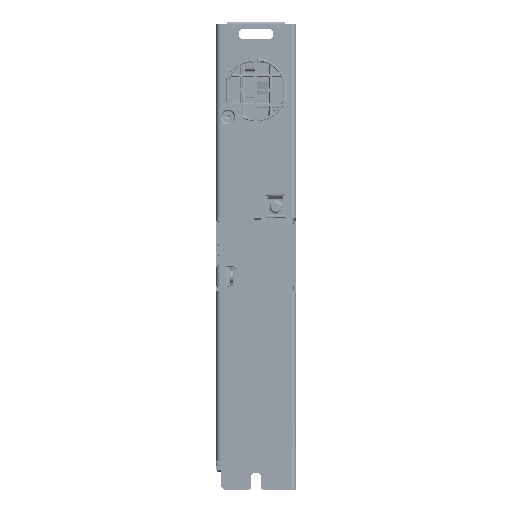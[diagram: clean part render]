
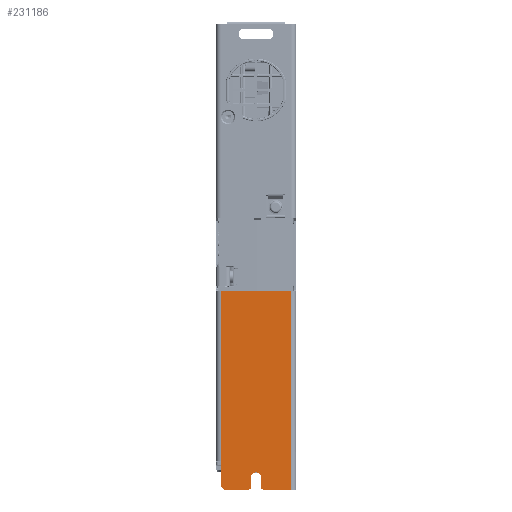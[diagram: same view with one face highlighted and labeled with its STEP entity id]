
A CAD part, top view. The second image highlights one B-rep face of the part: STEP entity #231186.
In plain terms, the highlighted planar face has unit normal (0, 0, 1).
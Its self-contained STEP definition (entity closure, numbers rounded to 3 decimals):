
#224234=CARTESIAN_POINT('',(4.414,-49.,7.3));
#224235=DIRECTION('',(0.,0.,1.));
#224236=DIRECTION('',(-0.707,-0.707,0.));
#224237=AXIS2_PLACEMENT_3D('',#224234,#224235,#224236);
#224239=DIRECTION('',(0.707,-0.707,0.));
#224240=VECTOR('',#224239,1.293);
#224241=CARTESIAN_POINT('',(2.793,-48.793,7.3));
#224242=LINE('',#224241,#224240);
#224243=CARTESIAN_POINT('',(3.5,-48.086,7.3));
#224244=DIRECTION('',(0.,0.,1.));
#224245=DIRECTION('',(-1.,0.,0.));
#224246=AXIS2_PLACEMENT_3D('',#224243,#224244,#224245);
#224248=DIRECTION('',(0.,1.,0.));
#224249=VECTOR('',#224248,12.286);
#224250=CARTESIAN_POINT('',(2.5,-48.086,7.3));
#224251=LINE('',#224250,#224249);
#224252=DIRECTION('',(-1.,0.,0.));
#224253=VECTOR('',#224252,0.2);
#224254=CARTESIAN_POINT('',(2.5,-35.8,7.3));
#224255=LINE('',#224254,#224253);
#224256=DIRECTION('',(-1.,0.,0.));
#224257=VECTOR('',#224256,35.2);
#224258=CARTESIAN_POINT('',(37.5,49.3,7.3));
#224259=LINE('',#224258,#224257);
#224260=DIRECTION('',(-1.,0.,0.));
#224261=VECTOR('',#224260,13.9);
#224262=CARTESIAN_POINT('',(37.5,-50.,7.3));
#224263=LINE('',#224262,#224261);
#224264=CARTESIAN_POINT('',(23.6,-49.,7.3));
#224265=DIRECTION('',(0.,0.,1.));
#224266=DIRECTION('',(-1.,0.,0.));
#224267=AXIS2_PLACEMENT_3D('',#224264,#224265,#224266);
#224269=DIRECTION('',(0.,1.,0.));
#224270=VECTOR('',#224269,5.);
#224271=CARTESIAN_POINT('',(22.6,-49.,7.3));
#224272=LINE('',#224271,#224270);
#224273=CARTESIAN_POINT('',(20.,-44.,7.3));
#224274=DIRECTION('',(0.,0.,-1.));
#224275=DIRECTION('',(-1.,0.,0.));
#224276=AXIS2_PLACEMENT_3D('',#224273,#224274,#224275);
#224278=DIRECTION('',(0.,1.,0.));
#224279=VECTOR('',#224278,5.);
#224280=CARTESIAN_POINT('',(17.4,-49.,7.3));
#224281=LINE('',#224280,#224279);
#224282=CARTESIAN_POINT('',(16.4,-49.,7.3));
#224283=DIRECTION('',(0.,0.,1.));
#224284=DIRECTION('',(0.,-1.,0.));
#224285=AXIS2_PLACEMENT_3D('',#224282,#224283,#224284);
#224287=DIRECTION('',(-1.,0.,0.));
#224288=VECTOR('',#224287,11.986);
#224289=CARTESIAN_POINT('',(16.4,-50.,7.3));
#224290=LINE('',#224289,#224288);
#225096=DIRECTION('',(0.,-1.,0.));
#225097=VECTOR('',#225096,99.3);
#225098=CARTESIAN_POINT('',(37.5,49.3,7.3));
#225099=LINE('',#225098,#225097);
#226422=DIRECTION('',(0.,1.,0.));
#226423=VECTOR('',#226422,85.1);
#226424=CARTESIAN_POINT('',(2.3,-35.8,7.3));
#226425=LINE('',#226424,#226423);
#229312=CARTESIAN_POINT('',(37.5,-50.,7.3));
#229314=VERTEX_POINT('',#229312);
#229340=CARTESIAN_POINT('',(37.5,49.3,7.3));
#229341=CARTESIAN_POINT('',(2.3,49.3,7.3));
#229342=VERTEX_POINT('',#229340);
#229343=VERTEX_POINT('',#229341);
#229403=CARTESIAN_POINT('',(2.3,-35.8,7.3));
#229405=VERTEX_POINT('',#229403);
#229442=CARTESIAN_POINT('',(17.4,-44.,7.3));
#229443=CARTESIAN_POINT('',(22.6,-44.,7.3));
#229444=VERTEX_POINT('',#229442);
#229445=VERTEX_POINT('',#229443);
#229672=CARTESIAN_POINT('',(22.6,-49.,7.3));
#229673=VERTEX_POINT('',#229672);
#229674=CARTESIAN_POINT('',(23.6,-50.,7.3));
#229675=VERTEX_POINT('',#229674);
#229680=CARTESIAN_POINT('',(16.4,-50.,7.3));
#229681=VERTEX_POINT('',#229680);
#229682=CARTESIAN_POINT('',(17.4,-49.,7.3));
#229683=VERTEX_POINT('',#229682);
#229726=CARTESIAN_POINT('',(2.5,-35.8,7.3));
#229727=VERTEX_POINT('',#229726);
#230036=CARTESIAN_POINT('',(3.707,-49.707,7.3));
#230037=VERTEX_POINT('',#230036);
#230038=CARTESIAN_POINT('',(4.414,-50.,7.3));
#230039=VERTEX_POINT('',#230038);
#230040=CARTESIAN_POINT('',(2.5,-48.086,7.3));
#230041=CARTESIAN_POINT('',(2.793,-48.793,7.3));
#230042=VERTEX_POINT('',#230040);
#230043=VERTEX_POINT('',#230041);
#231149=CARTESIAN_POINT('',(20.,183.,7.3));
#231150=DIRECTION('',(0.,0.,-1.));
#231151=DIRECTION('',(-1.,0.,0.));
#231152=AXIS2_PLACEMENT_3D('',#231149,#231150,#231151);
#231153=PLANE('',#231152);
#231155=ORIENTED_EDGE('',*,*,#231154,.F.);
#231157=ORIENTED_EDGE('',*,*,#231156,.F.);
#231159=ORIENTED_EDGE('',*,*,#231158,.F.);
#231161=ORIENTED_EDGE('',*,*,#231160,.T.);
#231163=ORIENTED_EDGE('',*,*,#231162,.T.);
#231165=ORIENTED_EDGE('',*,*,#231164,.T.);
#231167=ORIENTED_EDGE('',*,*,#231166,.F.);
#231169=ORIENTED_EDGE('',*,*,#231168,.T.);
#231171=ORIENTED_EDGE('',*,*,#231170,.T.);
#231173=ORIENTED_EDGE('',*,*,#231172,.F.);
#231175=ORIENTED_EDGE('',*,*,#231174,.T.);
#231177=ORIENTED_EDGE('',*,*,#231176,.F.);
#231179=ORIENTED_EDGE('',*,*,#231178,.F.);
#231181=ORIENTED_EDGE('',*,*,#231180,.F.);
#231183=ORIENTED_EDGE('',*,*,#231182,.T.);
#231184=EDGE_LOOP('',(#231155,#231157,#231159,#231161,#231163,#231165,#231167,
#231169,#231171,#231173,#231175,#231177,#231179,#231181,#231183));
#231185=FACE_OUTER_BOUND('',#231184,.F.);
#231186=ADVANCED_FACE('',(#231185),#231153,.F.);
#224238=CIRCLE('',#224237,1.);
#224247=CIRCLE('',#224246,1.);
#224268=CIRCLE('',#224267,1.);
#224277=CIRCLE('',#224276,2.6);
#224286=CIRCLE('',#224285,1.);
#231154=EDGE_CURVE('',#230037,#230039,#224238,.T.);
#231156=EDGE_CURVE('',#230043,#230037,#224242,.T.);
#231158=EDGE_CURVE('',#230042,#230043,#224247,.T.);
#231160=EDGE_CURVE('',#230042,#229727,#224251,.T.);
#231162=EDGE_CURVE('',#229727,#229405,#224255,.T.);
#231164=EDGE_CURVE('',#229405,#229343,#226425,.T.);
#231166=EDGE_CURVE('',#229342,#229343,#224259,.T.);
#231168=EDGE_CURVE('',#229342,#229314,#225099,.T.);
#231170=EDGE_CURVE('',#229314,#229675,#224263,.T.);
#231172=EDGE_CURVE('',#229673,#229675,#224268,.T.);
#231174=EDGE_CURVE('',#229673,#229445,#224272,.T.);
#231176=EDGE_CURVE('',#229444,#229445,#224277,.T.);
#231178=EDGE_CURVE('',#229683,#229444,#224281,.T.);
#231180=EDGE_CURVE('',#229681,#229683,#224286,.T.);
#231182=EDGE_CURVE('',#229681,#230039,#224290,.T.);
